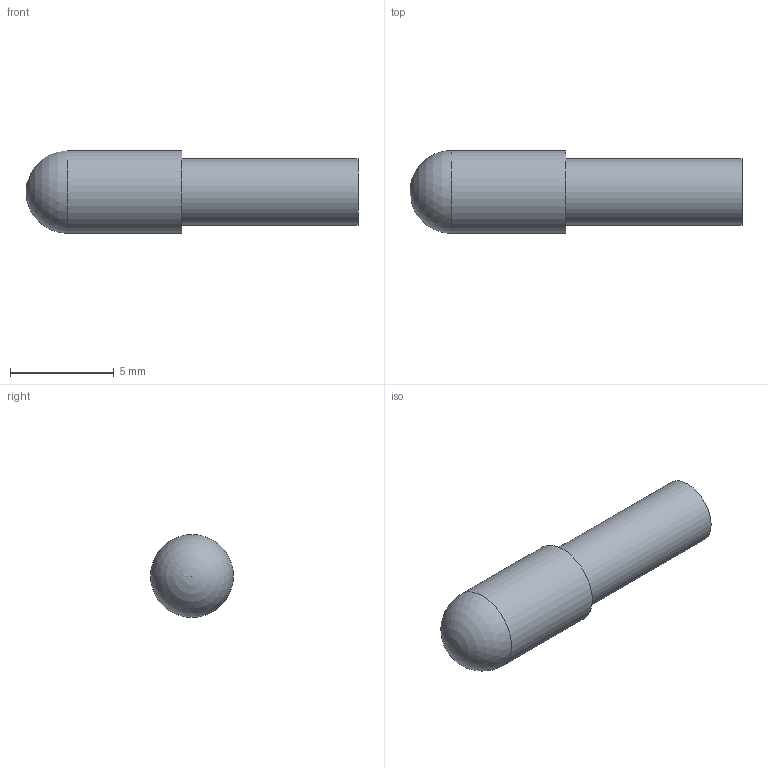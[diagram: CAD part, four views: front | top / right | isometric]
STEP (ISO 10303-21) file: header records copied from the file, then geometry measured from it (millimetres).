
FILE_DESCRIPTION( ( 'STEP AP203' ), '1' );
FILE_NAME( 'C:/Temp/Ganter_Step_05_03_2020/data/3_1/gn610/Spring loaded shell GN 610-4-16-HN.stp', '2020-03-12T08:33:19', ( 'License CC BY-ND 4.0' ), ( 'CADENAS' ), ' ', 'PARTsolutions', ' ' );
FILE_SCHEMA( ( 'CONFIG_CONTROL_DESIGN' ) );
Length unit declared in the file: millimetre
Products named in the file (1): _Spring loaded shell GN 610-4-16-HN
Bounding box: 16 x 4 x 4 mm (x, y, z)
Volume: 94.1 mm3; surface area: 272.4 mm2
Topology: 1 solids, 1 shells, 7 faces, 12 edges, 8 vertices
Faces by surface type: cylinder 3, plane 3, sphere 1
Full cylindrical faces by diameter (mm): 3 x1, 3.2 x1, 4 x1
Entity records: 182 total; most frequent: DIRECTION 28, CARTESIAN_POINT 21, AXIS2_PLACEMENT_3D 14, EDGE_LOOP 12, ORIENTED_EDGE 12, FACE_OUTER_BOUND 10, ADVANCED_FACE 7, VERTEX_POINT 7
